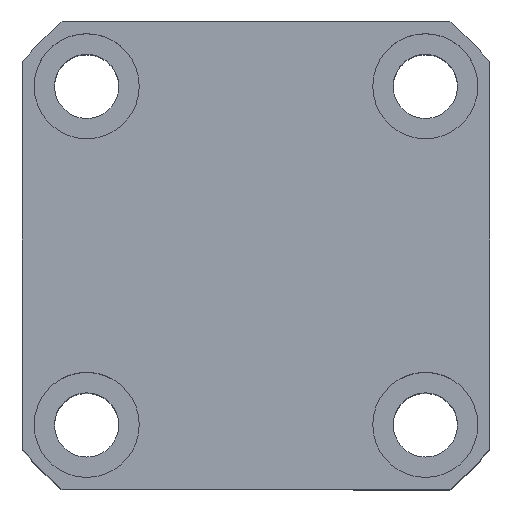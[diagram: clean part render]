
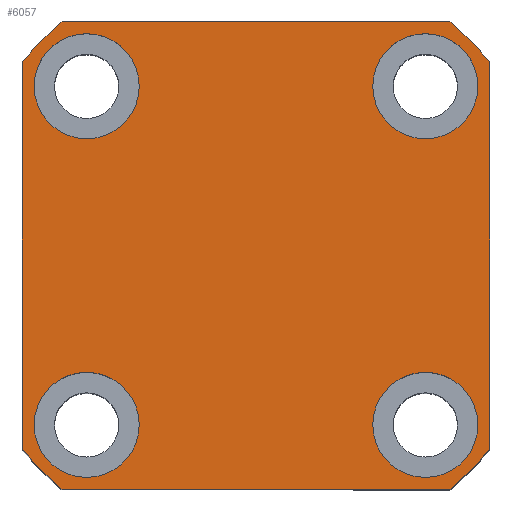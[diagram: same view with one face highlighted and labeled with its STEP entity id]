
A CAD part, top view. The second image highlights one B-rep face of the part: STEP entity #6057.
In plain terms, the highlighted planar face has unit normal (0, 0, 1).
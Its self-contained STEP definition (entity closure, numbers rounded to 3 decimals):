
#183 = VERTEX_POINT ( 'NONE', #3975 ) ;
#193 = EDGE_CURVE ( 'NONE', #350, #10424, #8608, .T. ) ;
#232 = EDGE_LOOP ( 'NONE', ( #1161, #8243 ) ) ;
#295 = DIRECTION ( 'NONE',  ( 0., 0., 1. ) ) ;
#350 = VERTEX_POINT ( 'NONE', #12614 ) ;
#456 = CIRCLE ( 'NONE', #3837, 9. ) ;
#460 = VERTEX_POINT ( 'NONE', #4754 ) ;
#619 = EDGE_CURVE ( 'NONE', #5583, #2530, #8763, .T. ) ;
#703 = EDGE_CURVE ( 'NONE', #2530, #4843, #3527, .T. ) ;
#720 = DIRECTION ( 'NONE',  ( 0., -1., 0. ) ) ;
#787 = CARTESIAN_POINT ( 'NONE',  ( -40., 33.226, 45. ) ) ;
#861 = CARTESIAN_POINT ( 'NONE',  ( 0., 0., 45. ) ) ;
#880 = CARTESIAN_POINT ( 'NONE',  ( -20., 29., 45. ) ) ;
#898 = CARTESIAN_POINT ( 'NONE',  ( -33.226, -40., 45. ) ) ;
#1141 = EDGE_LOOP ( 'NONE', ( #9449, #8019 ) ) ;
#1161 = ORIENTED_EDGE ( 'NONE', *, *, #2527, .F. ) ;
#1535 = DIRECTION ( 'NONE',  ( 1., 0., 0. ) ) ;
#1590 = DIRECTION ( 'NONE',  ( 0., 0., 1. ) ) ;
#1620 = DIRECTION ( 'NONE',  ( 0., 0., 1. ) ) ;
#1668 = CARTESIAN_POINT ( 'NONE',  ( -40., 33.226, 45. ) ) ;
#1832 = DIRECTION ( 'NONE',  ( 0., 0., 1. ) ) ;
#1857 = VERTEX_POINT ( 'NONE', #12475 ) ;
#1892 = AXIS2_PLACEMENT_3D ( 'NONE', #3743, #8114, #12355 ) ;
#1972 = CIRCLE ( 'NONE', #13843, 52. ) ;
#1998 = DIRECTION ( 'NONE',  ( 0., 0., 1. ) ) ;
#2014 = CARTESIAN_POINT ( 'NONE',  ( -29., 29., 45. ) ) ;
#2121 = VECTOR ( 'NONE', #5157, 1000. ) ;
#2233 = DIRECTION ( 'NONE',  ( 0., 0., 1. ) ) ;
#2380 = CARTESIAN_POINT ( 'NONE',  ( -33.226, 40., 45. ) ) ;
#2527 = EDGE_CURVE ( 'NONE', #9383, #183, #6769, .T. ) ;
#2530 = VERTEX_POINT ( 'NONE', #8024 ) ;
#2645 = DIRECTION ( 'NONE',  ( 1., 0., 0. ) ) ;
#2692 = DIRECTION ( 'NONE',  ( 1., 0., 0. ) ) ;
#2725 = VERTEX_POINT ( 'NONE', #3998 ) ;
#2825 = AXIS2_PLACEMENT_3D ( 'NONE', #2014, #2932, #6244 ) ;
#2849 = CIRCLE ( 'NONE', #10721, 9. ) ;
#2932 = DIRECTION ( 'NONE',  ( 0., 0., 1. ) ) ;
#2997 = CIRCLE ( 'NONE', #6257, 52. ) ;
#3185 = ORIENTED_EDGE ( 'NONE', *, *, #703, .T. ) ;
#3243 = VERTEX_POINT ( 'NONE', #7478 ) ;
#3284 = ORIENTED_EDGE ( 'NONE', *, *, #13906, .T. ) ;
#3421 = EDGE_CURVE ( 'NONE', #10424, #350, #8507, .T. ) ;
#3433 = EDGE_LOOP ( 'NONE', ( #3185, #4153, #11463, #4161, #12056, #3284, #4425, #8541 ) ) ;
#3527 = CIRCLE ( 'NONE', #9555, 52. ) ;
#3743 = CARTESIAN_POINT ( 'NONE',  ( 0., 0., 45. ) ) ;
#3837 = AXIS2_PLACEMENT_3D ( 'NONE', #6120, #10582, #5098 ) ;
#3975 = CARTESIAN_POINT ( 'NONE',  ( 20., -29., 45. ) ) ;
#3998 = CARTESIAN_POINT ( 'NONE',  ( 20., 29., 45. ) ) ;
#4153 = ORIENTED_EDGE ( 'NONE', *, *, #6084, .T. ) ;
#4161 = ORIENTED_EDGE ( 'NONE', *, *, #14189, .T. ) ;
#4198 = EDGE_CURVE ( 'NONE', #14022, #460, #2997, .T. ) ;
#4269 = AXIS2_PLACEMENT_3D ( 'NONE', #9014, #5697, #5597 ) ;
#4388 = CARTESIAN_POINT ( 'NONE',  ( 40., 33.226, 45. ) ) ;
#4425 = ORIENTED_EDGE ( 'NONE', *, *, #11577, .T. ) ;
#4732 = CIRCLE ( 'NONE', #1892, 52. ) ;
#4754 = CARTESIAN_POINT ( 'NONE',  ( 40., -33.226, 45. ) ) ;
#4843 = VERTEX_POINT ( 'NONE', #787 ) ;
#4851 = VERTEX_POINT ( 'NONE', #4979 ) ;
#4910 = EDGE_LOOP ( 'NONE', ( #9776, #6443 ) ) ;
#4979 = CARTESIAN_POINT ( 'NONE',  ( -40., -33.226, 45. ) ) ;
#5098 = DIRECTION ( 'NONE',  ( 1., 0., 0. ) ) ;
#5110 = DIRECTION ( 'NONE',  ( 1., 0., 0. ) ) ;
#5157 = DIRECTION ( 'NONE',  ( 1., 0., 0. ) ) ;
#5364 = FACE_BOUND ( 'NONE', #4910, .T. ) ;
#5393 = CIRCLE ( 'NONE', #11897, 9. ) ;
#5495 = CARTESIAN_POINT ( 'NONE',  ( 0., 0., 45. ) ) ;
#5496 = VERTEX_POINT ( 'NONE', #9559 ) ;
#5583 = VERTEX_POINT ( 'NONE', #14159 ) ;
#5597 = DIRECTION ( 'NONE',  ( 1., 0., 0. ) ) ;
#5697 = DIRECTION ( 'NONE',  ( 0., 0., 1. ) ) ;
#6057 = ADVANCED_FACE ( 'NONE', ( #14100, #5364, #11188, #12027, #11352 ), #11520, .T. ) ;
#6084 = EDGE_CURVE ( 'NONE', #4843, #4851, #12570, .T. ) ;
#6120 = CARTESIAN_POINT ( 'NONE',  ( 29., 29., 45. ) ) ;
#6125 = DIRECTION ( 'NONE',  ( 1., 0., 0. ) ) ;
#6179 = CARTESIAN_POINT ( 'NONE',  ( -29., 29., 45. ) ) ;
#6195 = VECTOR ( 'NONE', #11255, 1000. ) ;
#6244 = DIRECTION ( 'NONE',  ( 1., 0., 0. ) ) ;
#6257 = AXIS2_PLACEMENT_3D ( 'NONE', #861, #1998, #7564 ) ;
#6306 = DIRECTION ( 'NONE',  ( 0., 0., 1. ) ) ;
#6443 = ORIENTED_EDGE ( 'NONE', *, *, #3421, .F. ) ;
#6769 = CIRCLE ( 'NONE', #9997, 9. ) ;
#6843 = CARTESIAN_POINT ( 'NONE',  ( 0., 0., 45. ) ) ;
#7478 = CARTESIAN_POINT ( 'NONE',  ( 40., 33.226, 45. ) ) ;
#7564 = DIRECTION ( 'NONE',  ( 1., 0., 0. ) ) ;
#8019 = ORIENTED_EDGE ( 'NONE', *, *, #13720, .F. ) ;
#8024 = CARTESIAN_POINT ( 'NONE',  ( -33.226, 40., 45. ) ) ;
#8077 = DIRECTION ( 'NONE',  ( 0., 0., 1. ) ) ;
#8114 = DIRECTION ( 'NONE',  ( 0., 0., 1. ) ) ;
#8243 = ORIENTED_EDGE ( 'NONE', *, *, #10417, .F. ) ;
#8254 = DIRECTION ( 'NONE',  ( 0., 0., 1. ) ) ;
#8367 = CARTESIAN_POINT ( 'NONE',  ( -33.226, -40., 45. ) ) ;
#8507 = CIRCLE ( 'NONE', #8812, 9. ) ;
#8514 = VERTEX_POINT ( 'NONE', #8367 ) ;
#8541 = ORIENTED_EDGE ( 'NONE', *, *, #619, .T. ) ;
#8608 = CIRCLE ( 'NONE', #12915, 9. ) ;
#8721 = ORIENTED_EDGE ( 'NONE', *, *, #13738, .F. ) ;
#8763 = LINE ( 'NONE', #2380, #6195 ) ;
#8777 = CARTESIAN_POINT ( 'NONE',  ( -38., -29., 45. ) ) ;
#8812 = AXIS2_PLACEMENT_3D ( 'NONE', #10811, #1590, #2692 ) ;
#8824 = VECTOR ( 'NONE', #12051, 1000. ) ;
#8996 = ORIENTED_EDGE ( 'NONE', *, *, #11771, .F. ) ;
#9014 = CARTESIAN_POINT ( 'NONE',  ( 29., -29., 45. ) ) ;
#9027 = VERTEX_POINT ( 'NONE', #880 ) ;
#9383 = VERTEX_POINT ( 'NONE', #9850 ) ;
#9449 = ORIENTED_EDGE ( 'NONE', *, *, #13028, .F. ) ;
#9515 = DIRECTION ( 'NONE',  ( 1., 0., 0. ) ) ;
#9521 = LINE ( 'NONE', #898, #2121 ) ;
#9555 = AXIS2_PLACEMENT_3D ( 'NONE', #6843, #295, #1535 ) ;
#9559 = CARTESIAN_POINT ( 'NONE',  ( -38., 29., 45. ) ) ;
#9631 = CARTESIAN_POINT ( 'NONE',  ( -29., -29., 45. ) ) ;
#9776 = ORIENTED_EDGE ( 'NONE', *, *, #193, .F. ) ;
#9821 = CARTESIAN_POINT ( 'NONE',  ( 33.226, -40., 45. ) ) ;
#9850 = CARTESIAN_POINT ( 'NONE',  ( 38., -29., 45. ) ) ;
#9910 = DIRECTION ( 'NONE',  ( 1., 0., 0. ) ) ;
#9997 = AXIS2_PLACEMENT_3D ( 'NONE', #13615, #8077, #2645 ) ;
#10417 = EDGE_CURVE ( 'NONE', #183, #9383, #11854, .T. ) ;
#10424 = VERTEX_POINT ( 'NONE', #8777 ) ;
#10582 = DIRECTION ( 'NONE',  ( 0., 0., 1. ) ) ;
#10721 = AXIS2_PLACEMENT_3D ( 'NONE', #6179, #8254, #5110 ) ;
#10811 = CARTESIAN_POINT ( 'NONE',  ( -29., -29., 45. ) ) ;
#10854 = VECTOR ( 'NONE', #720, 1000. ) ;
#10917 = AXIS2_PLACEMENT_3D ( 'NONE', #11626, #1620, #6125 ) ;
#11188 = FACE_BOUND ( 'NONE', #14111, .T. ) ;
#11216 = CIRCLE ( 'NONE', #2825, 9. ) ;
#11255 = DIRECTION ( 'NONE',  ( -1., 0., 0. ) ) ;
#11352 = FACE_OUTER_BOUND ( 'NONE', #3433, .T. ) ;
#11463 = ORIENTED_EDGE ( 'NONE', *, *, #12778, .T. ) ;
#11520 = PLANE ( 'NONE',  #10917 ) ;
#11577 = EDGE_CURVE ( 'NONE', #3243, #5583, #4732, .T. ) ;
#11626 = CARTESIAN_POINT ( 'NONE',  ( 0., 0., 45. ) ) ;
#11771 = EDGE_CURVE ( 'NONE', #5496, #9027, #2849, .T. ) ;
#11854 = CIRCLE ( 'NONE', #4269, 9. ) ;
#11897 = AXIS2_PLACEMENT_3D ( 'NONE', #12802, #1832, #9515 ) ;
#12027 = FACE_BOUND ( 'NONE', #1141, .T. ) ;
#12051 = DIRECTION ( 'NONE',  ( 0., 1., 0. ) ) ;
#12056 = ORIENTED_EDGE ( 'NONE', *, *, #4198, .T. ) ;
#12355 = DIRECTION ( 'NONE',  ( 1., 0., 0. ) ) ;
#12475 = CARTESIAN_POINT ( 'NONE',  ( 38., 29., 45. ) ) ;
#12570 = LINE ( 'NONE', #1668, #10854 ) ;
#12614 = CARTESIAN_POINT ( 'NONE',  ( -20., -29., 45. ) ) ;
#12778 = EDGE_CURVE ( 'NONE', #4851, #8514, #1972, .T. ) ;
#12802 = CARTESIAN_POINT ( 'NONE',  ( 29., 29., 45. ) ) ;
#12864 = DIRECTION ( 'NONE',  ( 1., 0., 0. ) ) ;
#12915 = AXIS2_PLACEMENT_3D ( 'NONE', #9631, #6306, #12864 ) ;
#13028 = EDGE_CURVE ( 'NONE', #1857, #2725, #456, .T. ) ;
#13443 = LINE ( 'NONE', #4388, #8824 ) ;
#13615 = CARTESIAN_POINT ( 'NONE',  ( 29., -29., 45. ) ) ;
#13720 = EDGE_CURVE ( 'NONE', #2725, #1857, #5393, .T. ) ;
#13738 = EDGE_CURVE ( 'NONE', #9027, #5496, #11216, .T. ) ;
#13843 = AXIS2_PLACEMENT_3D ( 'NONE', #5495, #2233, #9910 ) ;
#13906 = EDGE_CURVE ( 'NONE', #460, #3243, #13443, .T. ) ;
#14022 = VERTEX_POINT ( 'NONE', #9821 ) ;
#14100 = FACE_BOUND ( 'NONE', #232, .T. ) ;
#14111 = EDGE_LOOP ( 'NONE', ( #8721, #8996 ) ) ;
#14159 = CARTESIAN_POINT ( 'NONE',  ( 33.226, 40., 45. ) ) ;
#14189 = EDGE_CURVE ( 'NONE', #8514, #14022, #9521, .T. ) ;
